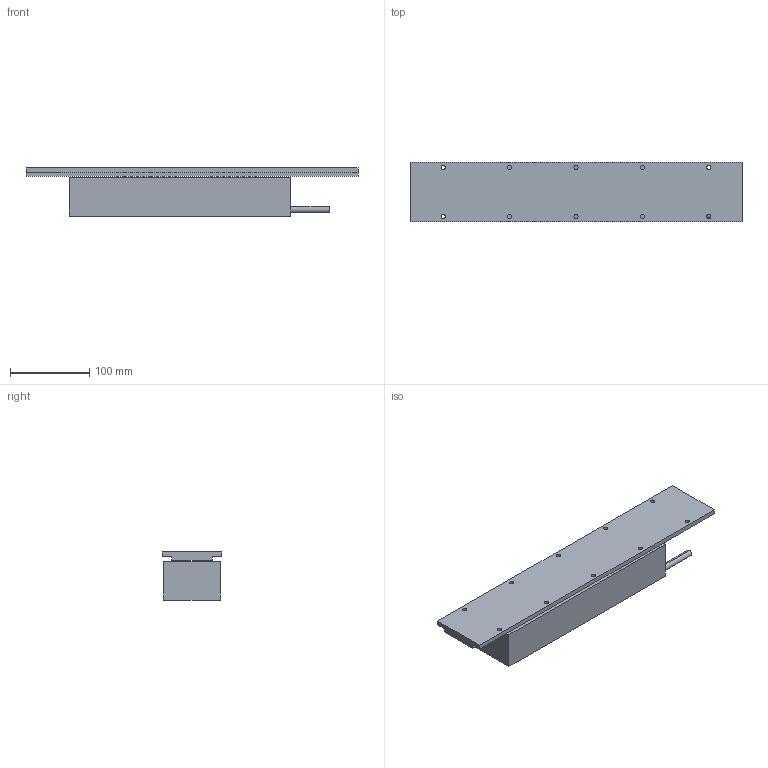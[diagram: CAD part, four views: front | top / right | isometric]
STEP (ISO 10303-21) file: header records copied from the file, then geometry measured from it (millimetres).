
FILE_DESCRIPTION (( 'STEP AP214' ), '1' );
FILE_NAME ('FLM-71-280蚾饜极.STEP', '2022-05-12T08:02:57', ( 'Microsoft' ), ( 'Microsoft' ), 'SwSTEP 2.0', 'SolidWorks 2016', '' );
FILE_SCHEMA (( 'AUTOMOTIVE_DESIGN' ));
Length unit declared in the file: millimetre
Products named in the file (3): TLM-75-L420; FLM-71-280; FLM-71-280蚾饜极
Assembly tree (2 placements, depth 2):
  FLM-71-280蚾饜极
    FLM-71-280
    TLM-75-L420
Bounding box: 420 x 75 x 61.1 mm (x, y, z)
Volume: 1271127.1 mm3; surface area: 151154.4 mm2
Topology: 2 solids, 2 shells, 177 faces, 414 edges, 234 vertices
Faces by surface type: cylinder 78, cone 72, plane 27
Entity records: 5338 total; most frequent: DIRECTION 934, CARTESIAN_POINT 794, ORIENTED_EDGE 756, EDGE_CURVE 378, AXIS2_PLACEMENT_3D 374, VERTEX_POINT 234, EDGE_LOOP 226, CIRCLE 192
